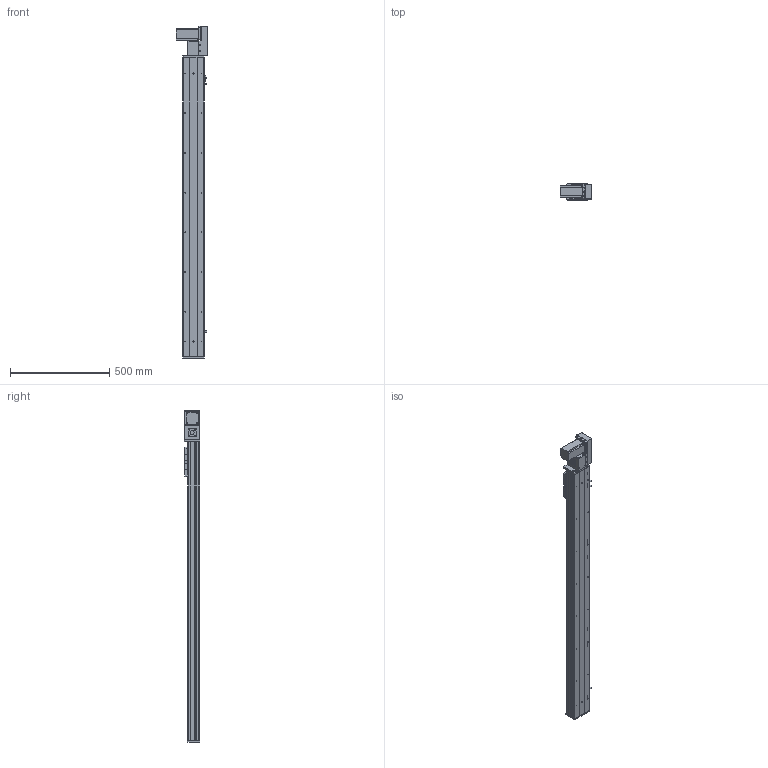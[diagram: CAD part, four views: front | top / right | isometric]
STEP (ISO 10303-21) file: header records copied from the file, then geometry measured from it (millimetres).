
FILE_DESCRIPTION (( 'STEP AP203' ), '1' );
FILE_NAME ('Y10CB-D90-S1250-BR-P400W.STEP', '2020-02-16T01:55:57', ( '微软用户' ), ( '微软中国' ), 'SwSTEP 2.0', 'SolidWorks 2017', '' );
FILE_SCHEMA (( 'CONFIG_CONTROL_DESIGN' ));
Length unit declared in the file: millimetre
Products named in the file (18): 10CB9-掛极; 0B-萇儂楊擘啣; 10CB-耜裔; san松下电机400不带刹车----; Y135C-陔俋离換覜結え-; 0B-源倛裔啣; Y100-135俋离換覜ん--; 0B-埴倛裔啣; Y10B--々湍喘謫眊--666; Y俋欶BR----; 0CB-雄赽釱---; Y10CB-D90-S1250-BR-P400W; 10CB-詩湍-; 0Cb-俋欶---; Y10CB- 掛极耜裔啣-毀---; Y10B-々湍喘謫眊楊擘啣--; Y10C---詩湍揤啣; Y10B-耜蚾蟀諉啣----
Assembly tree (21 placements, depth 2):
  Y10CB-D90-S1250-BR-P400W
    0CB-雄赽釱---
    0Cb-俋欶---
    Y10B-々湍喘謫眊楊擘啣--
    Y10B-耜蚾蟀諉啣----
    0B-萇儂楊擘啣
    san松下电机400不带刹车----
    0B-源倛裔啣
    0B-埴倛裔啣
    Y俋欶BR----
    10CB-詩湍-
    Y10CB- 掛极耜裔啣-毀---  x2
    Y10C---詩湍揤啣  x2
    10CB9-掛极
    10CB-耜裔
    Y135C-陔俋离換覜結え-
    Y100-135俋离換覜ん--  x3
    Y10B--々湍喘謫眊--666
Bounding box: 157.5 x 80.5 x 1672.5 mm (x, y, z)
Volume: 3573062.8 mm3; surface area: 1632706.9 mm2
Topology: 21 solids, 21 shells, 1002 faces, 2683 edges, 1754 vertices
Faces by surface type: cylinder 497, plane 481, cone 24
Entity records: 31404 total; most frequent: CARTESIAN_POINT 5617, DIRECTION 5062, ORIENTED_EDGE 4836, EDGE_CURVE 2418, AXIS2_PLACEMENT_3D 1809, VERTEX_POINT 1580, LINE 1444, VECTOR 1444
